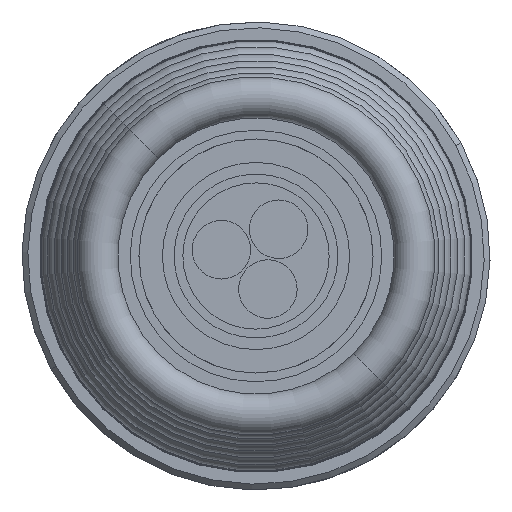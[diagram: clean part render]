
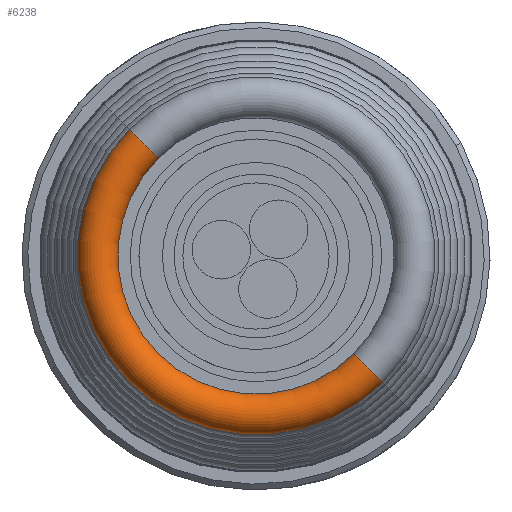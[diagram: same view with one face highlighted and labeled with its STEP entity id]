
A CAD part, front view. The second image highlights one B-rep face of the part: STEP entity #6238.
In plain terms, the highlighted toroidal (fillet/blend) face has major radius 2.71 mm and minor radius 0.35 mm.
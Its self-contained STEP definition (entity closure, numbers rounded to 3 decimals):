
#34 = EDGE_CURVE ( 'NONE', #5765, #644, #403, .T. ) ;
#204 = ORIENTED_EDGE ( 'NONE', *, *, #1487, .F. ) ;
#218 = DIRECTION ( 'NONE',  ( -0.707, 0., -0.707 ) ) ;
#382 = DIRECTION ( 'NONE',  ( 0., 0., 1. ) ) ;
#403 = CIRCLE ( 'NONE', #7779, 2.36 ) ;
#644 = VERTEX_POINT ( 'NONE', #3786 ) ;
#1081 = CARTESIAN_POINT ( 'NONE',  ( -7.938, -61.463, 1.916 ) ) ;
#1245 = CIRCLE ( 'NONE', #6147, 0.35 ) ;
#1259 = TOROIDAL_SURFACE ( 'NONE', #5291, 2.71, 0.35 ) ;
#1410 = ORIENTED_EDGE ( 'NONE', *, *, #4917, .F. ) ;
#1487 = EDGE_CURVE ( 'NONE', #5765, #4679, #2900, .T. ) ;
#1656 = AXIS2_PLACEMENT_3D ( 'NONE', #7309, #3493, #382 ) ;
#1866 = AXIS2_PLACEMENT_3D ( 'NONE', #4095, #7219, #4657 ) ;
#2179 = ORIENTED_EDGE ( 'NONE', *, *, #34, .T. ) ;
#2471 = CARTESIAN_POINT ( 'NONE',  ( -8.186, -61.463, 2.164 ) ) ;
#2900 = CIRCLE ( 'NONE', #1866, 0.35 ) ;
#3493 = DIRECTION ( 'NONE',  ( 0., 1., 0. ) ) ;
#3651 = EDGE_LOOP ( 'NONE', ( #1410, #204, #2179, #5151 ) ) ;
#3652 = CIRCLE ( 'NONE', #1656, 3.06 ) ;
#3786 = CARTESIAN_POINT ( 'NONE',  ( -7.691, -61.463, 1.669 ) ) ;
#4095 = CARTESIAN_POINT ( 'NONE',  ( -4.106, -61.463, -1.916 ) ) ;
#4260 = CARTESIAN_POINT ( 'NONE',  ( -4.353, -61.463, -1.669 ) ) ;
#4657 = DIRECTION ( 'NONE',  ( 0.707, 0., -0.707 ) ) ;
#4679 = VERTEX_POINT ( 'NONE', #6027 ) ;
#4809 = DIRECTION ( 'NONE',  ( -0.707, 0., 0.707 ) ) ;
#4841 = DIRECTION ( 'NONE',  ( 0., 1., 0. ) ) ;
#4917 = EDGE_CURVE ( 'NONE', #4679, #6472, #3652, .T. ) ;
#5007 = DIRECTION ( 'NONE',  ( 0.707, 0., -0.707 ) ) ;
#5151 = ORIENTED_EDGE ( 'NONE', *, *, #7588, .T. ) ;
#5291 = AXIS2_PLACEMENT_3D ( 'NONE', #7143, #5855, #5007 ) ;
#5765 = VERTEX_POINT ( 'NONE', #4260 ) ;
#5855 = DIRECTION ( 'NONE',  ( 0., 1., 0. ) ) ;
#6027 = CARTESIAN_POINT ( 'NONE',  ( -3.858, -61.463, -2.164 ) ) ;
#6147 = AXIS2_PLACEMENT_3D ( 'NONE', #1081, #218, #4809 ) ;
#6238 = ADVANCED_FACE ( 'NONE', ( #6590 ), #1259, .T. ) ;
#6472 = VERTEX_POINT ( 'NONE', #2471 ) ;
#6590 = FACE_OUTER_BOUND ( 'NONE', #3651, .T. ) ;
#7143 = CARTESIAN_POINT ( 'NONE',  ( -6.022, -61.463, 0. ) ) ;
#7219 = DIRECTION ( 'NONE',  ( 0.707, 0., 0.707 ) ) ;
#7281 = DIRECTION ( 'NONE',  ( 0., 0., 1. ) ) ;
#7309 = CARTESIAN_POINT ( 'NONE',  ( -6.022, -61.463, 0. ) ) ;
#7588 = EDGE_CURVE ( 'NONE', #644, #6472, #1245, .T. ) ;
#7779 = AXIS2_PLACEMENT_3D ( 'NONE', #7920, #4841, #7281 ) ;
#7920 = CARTESIAN_POINT ( 'NONE',  ( -6.022, -61.463, 0. ) ) ;
